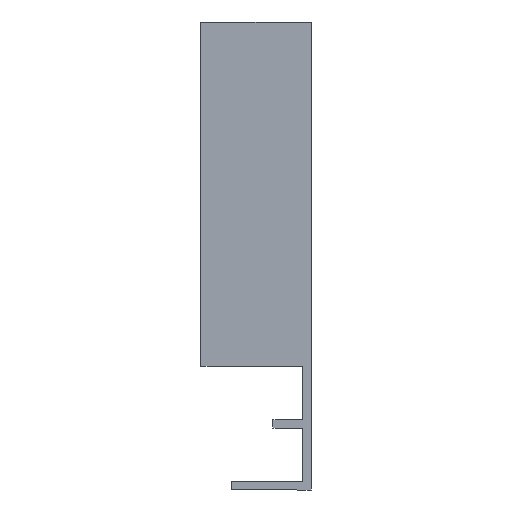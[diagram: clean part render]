
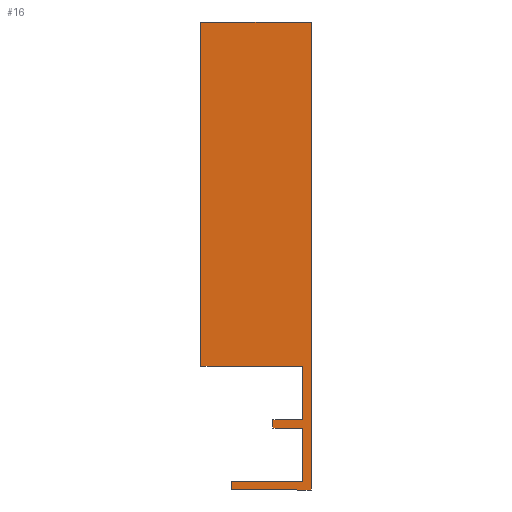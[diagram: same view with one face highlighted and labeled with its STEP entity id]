
A CAD part, left-side view. The second image highlights one B-rep face of the part: STEP entity #16.
In plain terms, the highlighted planar face has unit normal (-1, 0, 0).
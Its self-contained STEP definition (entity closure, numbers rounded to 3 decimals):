
#16 = ADVANCED_FACE ( 'NONE', ( #132 ), #369, .T. ) ;
#22 = EDGE_CURVE ( 'NONE', #319, #342, #130, .T. ) ;
#23 = EDGE_CURVE ( 'NONE', #340, #319, #137, .T. ) ;
#34 = EDGE_CURVE ( 'NONE', #342, #325, #116, .T. ) ;
#36 = EDGE_CURVE ( 'NONE', #343, #328, #111, .T. ) ;
#40 = EDGE_CURVE ( 'NONE', #332, #334, #106, .T. ) ;
#42 = EDGE_CURVE ( 'NONE', #328, #330, #260, .T. ) ;
#56 = EDGE_CURVE ( 'NONE', #325, #343, #281, .T. ) ;
#59 = EDGE_CURVE ( 'NONE', #330, #332, #287, .T. ) ;
#61 = EDGE_CURVE ( 'NONE', #347, #349, #291, .T. ) ;
#62 = EDGE_CURVE ( 'NONE', #334, #346, #293, .T. ) ;
#64 = EDGE_CURVE ( 'NONE', #346, #347, #295, .T. ) ;
#66 = EDGE_CURVE ( 'NONE', #349, #340, #297, .T. ) ;
#73 = AXIS2_PLACEMENT_3D ( 'NONE', #372, #377, #378 ) ;
#106 = LINE ( 'NONE', #417, #257 ) ;
#108 = VECTOR ( 'NONE', #408, 1000. ) ;
#111 = LINE ( 'NONE', #411, #119 ) ;
#116 = LINE ( 'NONE', #402, #108 ) ;
#119 = VECTOR ( 'NONE', #412, 1000. ) ;
#128 = VECTOR ( 'NONE', #382, 1000. ) ;
#129 = VECTOR ( 'NONE', #384, 1000. ) ;
#130 = LINE ( 'NONE', #381, #128 ) ;
#132 = FACE_OUTER_BOUND ( 'NONE', #152, .T. ) ;
#137 = LINE ( 'NONE', #383, #129 ) ;
#152 = EDGE_LOOP ( 'NONE', ( #232, #233, #234, #235, #242, #237, #243, #241, #173, #223, #199, #175 ) ) ;
#173 = ORIENTED_EDGE ( 'NONE', *, *, #62, .T. ) ;
#175 = ORIENTED_EDGE ( 'NONE', *, *, #66, .T. ) ;
#199 = ORIENTED_EDGE ( 'NONE', *, *, #61, .T. ) ;
#223 = ORIENTED_EDGE ( 'NONE', *, *, #64, .T. ) ;
#232 = ORIENTED_EDGE ( 'NONE', *, *, #23, .T. ) ;
#233 = ORIENTED_EDGE ( 'NONE', *, *, #22, .T. ) ;
#234 = ORIENTED_EDGE ( 'NONE', *, *, #34, .T. ) ;
#235 = ORIENTED_EDGE ( 'NONE', *, *, #56, .T. ) ;
#237 = ORIENTED_EDGE ( 'NONE', *, *, #42, .T. ) ;
#241 = ORIENTED_EDGE ( 'NONE', *, *, #40, .T. ) ;
#242 = ORIENTED_EDGE ( 'NONE', *, *, #36, .T. ) ;
#243 = ORIENTED_EDGE ( 'NONE', *, *, #59, .T. ) ;
#253 = VECTOR ( 'NONE', #424, 1000. ) ;
#257 = VECTOR ( 'NONE', #420, 1000. ) ;
#260 = LINE ( 'NONE', #419, #253 ) ;
#281 = LINE ( 'NONE', #453, #282 ) ;
#282 = VECTOR ( 'NONE', #454, 1000. ) ;
#287 = LINE ( 'NONE', #459, #288 ) ;
#288 = VECTOR ( 'NONE', #460, 1000. ) ;
#291 = LINE ( 'NONE', #463, #292 ) ;
#292 = VECTOR ( 'NONE', #464, 1000. ) ;
#293 = LINE ( 'NONE', #465, #294 ) ;
#294 = VECTOR ( 'NONE', #466, 1000. ) ;
#295 = LINE ( 'NONE', #467, #296 ) ;
#296 = VECTOR ( 'NONE', #468, 1000. ) ;
#297 = LINE ( 'NONE', #470, #298 ) ;
#298 = VECTOR ( 'NONE', #471, 1000. ) ;
#319 = VERTEX_POINT ( 'NONE', #512 ) ;
#325 = VERTEX_POINT ( 'NONE', #513 ) ;
#328 = VERTEX_POINT ( 'NONE', #500 ) ;
#330 = VERTEX_POINT ( 'NONE', #511 ) ;
#332 = VERTEX_POINT ( 'NONE', #517 ) ;
#334 = VERTEX_POINT ( 'NONE', #519 ) ;
#340 = VERTEX_POINT ( 'NONE', #525 ) ;
#342 = VERTEX_POINT ( 'NONE', #527 ) ;
#343 = VERTEX_POINT ( 'NONE', #528 ) ;
#346 = VERTEX_POINT ( 'NONE', #531 ) ;
#347 = VERTEX_POINT ( 'NONE', #532 ) ;
#349 = VERTEX_POINT ( 'NONE', #534 ) ;
#369 = PLANE ( 'NONE',  #73 ) ;
#372 = CARTESIAN_POINT ( 'NONE',  ( -238.5, 6., -16.7 ) ) ;
#377 = DIRECTION ( 'NONE',  ( -1., 0., 0. ) ) ;
#378 = DIRECTION ( 'NONE',  ( 0., -1., 0. ) ) ;
#381 = CARTESIAN_POINT ( 'NONE',  ( -238.5, 6., -16.7 ) ) ;
#382 = DIRECTION ( 'NONE',  ( 0., 0., -1. ) ) ;
#383 = CARTESIAN_POINT ( 'NONE',  ( -238.5, -4.3, -16.7 ) ) ;
#384 = DIRECTION ( 'NONE',  ( 0., 1., 0. ) ) ;
#402 = CARTESIAN_POINT ( 'NONE',  ( -238.5, 6., -17.9 ) ) ;
#408 = DIRECTION ( 'NONE',  ( 0., -1., 0. ) ) ;
#411 = CARTESIAN_POINT ( 'NONE',  ( -238.5, -5.5, 49.7 ) ) ;
#412 = DIRECTION ( 'NONE',  ( 0., 1., 0. ) ) ;
#417 = CARTESIAN_POINT ( 'NONE',  ( -238.5, -4.3, 0. ) ) ;
#419 = CARTESIAN_POINT ( 'NONE',  ( -238.5, 10.4, 49.7 ) ) ;
#420 = DIRECTION ( 'NONE',  ( 0., 0., -1. ) ) ;
#424 = DIRECTION ( 'NONE',  ( 0., 0., -1. ) ) ;
#453 = CARTESIAN_POINT ( 'NONE',  ( -238.5, -5.5, -17.9 ) ) ;
#454 = DIRECTION ( 'NONE',  ( 0., 0., 1. ) ) ;
#459 = CARTESIAN_POINT ( 'NONE',  ( -238.5, 10.4, 0. ) ) ;
#460 = DIRECTION ( 'NONE',  ( 0., -1., 0. ) ) ;
#463 = CARTESIAN_POINT ( 'NONE',  ( -238.5, 0., -8.95 ) ) ;
#464 = DIRECTION ( 'NONE',  ( 0., -1., 0. ) ) ;
#465 = CARTESIAN_POINT ( 'NONE',  ( -238.5, -4.3, -7.75 ) ) ;
#466 = DIRECTION ( 'NONE',  ( 0., 1., 0. ) ) ;
#467 = CARTESIAN_POINT ( 'NONE',  ( -238.5, 0., -7.75 ) ) ;
#468 = DIRECTION ( 'NONE',  ( 0., 0., -1. ) ) ;
#470 = CARTESIAN_POINT ( 'NONE',  ( -238.5, -4.3, -8.95 ) ) ;
#471 = DIRECTION ( 'NONE',  ( 0., 0., -1. ) ) ;
#500 = CARTESIAN_POINT ( 'NONE',  ( -238.5, 10.4, 49.7 ) ) ;
#511 = CARTESIAN_POINT ( 'NONE',  ( -238.5, 10.4, 0. ) ) ;
#512 = CARTESIAN_POINT ( 'NONE',  ( -238.5, 6., -16.7 ) ) ;
#513 = CARTESIAN_POINT ( 'NONE',  ( -238.5, -5.5, -17.9 ) ) ;
#517 = CARTESIAN_POINT ( 'NONE',  ( -238.5, -4.3, 0. ) ) ;
#519 = CARTESIAN_POINT ( 'NONE',  ( -238.5, -4.3, -7.75 ) ) ;
#525 = CARTESIAN_POINT ( 'NONE',  ( -238.5, -4.3, -16.7 ) ) ;
#527 = CARTESIAN_POINT ( 'NONE',  ( -238.5, 6., -17.9 ) ) ;
#528 = CARTESIAN_POINT ( 'NONE',  ( -238.5, -5.5, 49.7 ) ) ;
#531 = CARTESIAN_POINT ( 'NONE',  ( -238.5, 0., -7.75 ) ) ;
#532 = CARTESIAN_POINT ( 'NONE',  ( -238.5, 0., -8.95 ) ) ;
#534 = CARTESIAN_POINT ( 'NONE',  ( -238.5, -4.3, -8.95 ) ) ;
